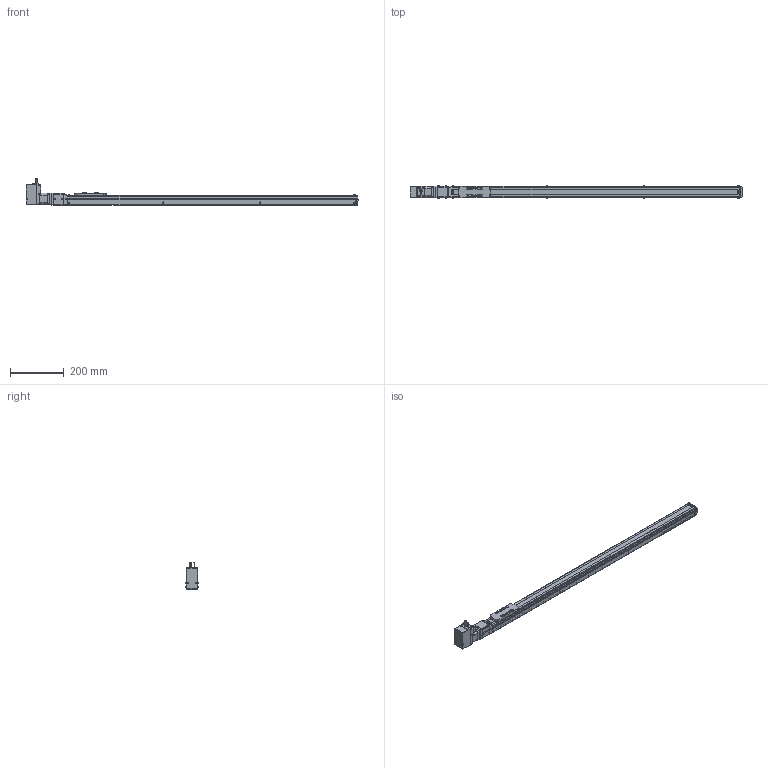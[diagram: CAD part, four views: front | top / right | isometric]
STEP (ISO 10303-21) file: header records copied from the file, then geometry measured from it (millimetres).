
FILE_DESCRIPTION(('FreeCAD Model'),'2;1');
FILE_NAME('Open CASCADE Shape Model','2023-08-01T18:40:11',('Author'),( ''),'Open CASCADE STEP processor 7.5','FreeCAD','Unknown');
FILE_SCHEMA(('AUTOMOTIVE_DESIGN { 1 0 10303 214 1 1 1 1 }'));
Length unit declared in the file: millimetre
Products named in the file (20): RCB0411; Shapes; Shapes001; Shapes002; Shapes003; Shapes004; Shapes005; Shapes006; Shapes007; Shapes008; Shapes009; Shapes010; Shapes011; Shapes012; Shapes013; KSF4-10-0900-0-AR(0); KSF4---(Cover); KSF4-AR---(Motor bracket); KSF4-10-0900---(slider); KSF4-10-0900-0-AR-(09000ARNo0)---(body)
Assembly tree (19 placements, depth 3):
  RCB0411
    Shapes
    Shapes001
    Shapes002
    Shapes003
    Shapes004
    Shapes005
    Shapes006
    Shapes007
    Shapes008
    Shapes009
    Shapes010
    Shapes011
    Shapes012
    Shapes013
    KSF4-10-0900-0-AR(0)
      KSF4---(Cover)
      KSF4-AR---(Motor bracket)
      KSF4-10-0900---(slider)
      KSF4-10-0900-0-AR-(09000ARNo0)---(body)
Bounding box: 1232 x 45.4 x 99.34 mm (x, y, z)
Volume: 1931670 mm3; surface area: 355717.1 mm2
Topology: 18 solids, 18 shells, 1317 faces, 3378 edges, 2204 vertices
Faces by surface type: plane 727, cylinder 440, cone 68, torus 53, bspline 19, revolution 6, sphere 4
Full cylindrical faces by diameter (mm): 2.113 x8, 2.459 x3, 3 x6, 3.242 x4, 3.4 x22, 4 x3, 4.5 x2, 5.5 x8, 6 x1, 6.5 x24, 8 x1, 12 x1, 22 x1, 28 x1, 30 x2
Entity records: 95570 total; most frequent: CARTESIAN_POINT 27314, DIRECTION 12833, LINE 7591, VECTOR 7591, ORIENTED_EDGE 6720, PCURVE 6720, DEFINITIONAL_REPRESENTATION 6720, EDGE_CURVE 3360
